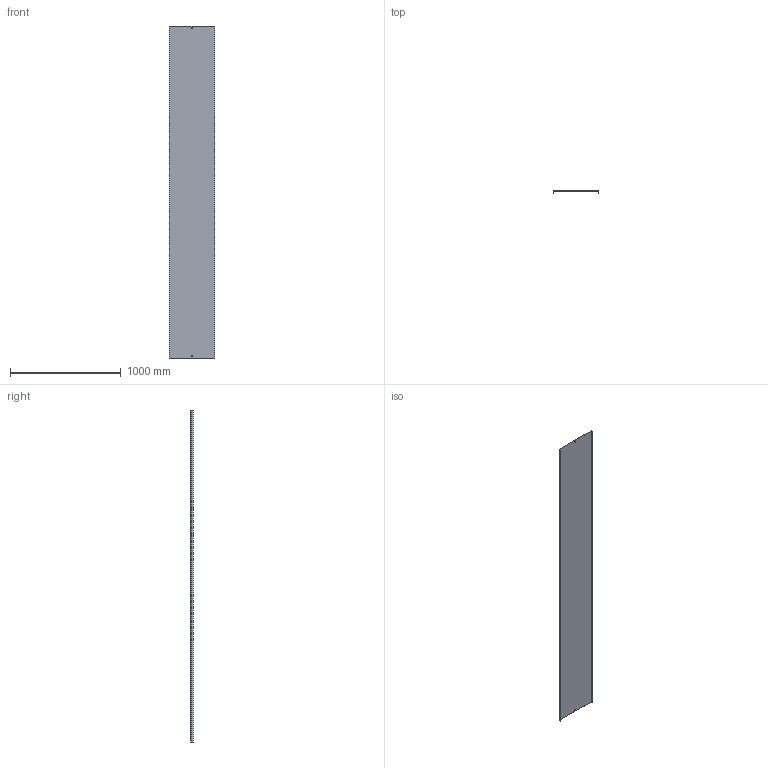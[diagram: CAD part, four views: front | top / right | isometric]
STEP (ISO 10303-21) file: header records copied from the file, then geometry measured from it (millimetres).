
FILE_DESCRIPTION (( 'STEP AP214' ), '1' );
FILE_NAME ('05N3R400.step', '2025-02-21T09:59:36', ( '' ), ( '' ), 'SwSTEP 2.0', 'SolidWorks 2023', '' );
FILE_SCHEMA (( 'AUTOMOTIVE_DESIGN' ));
Length unit declared in the file: millimetre
Products named in the file (1): 05N3R400
Bounding box: 407 x 20 x 3000 mm (x, y, z)
Volume: 1997824.5 mm3; surface area: 2674191 mm2
Topology: 1 solids, 1 shells, 18 faces, 48 edges, 32 vertices
Faces by surface type: plane 18
Entity records: 583 total; most frequent: CARTESIAN_POINT 99, ORIENTED_EDGE 96, DIRECTION 86, LINE 48, VECTOR 48, EDGE_CURVE 48, VERTEX_POINT 32, EDGE_LOOP 22
